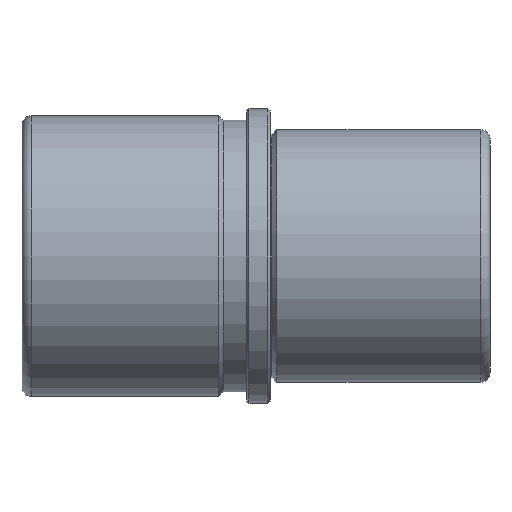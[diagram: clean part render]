
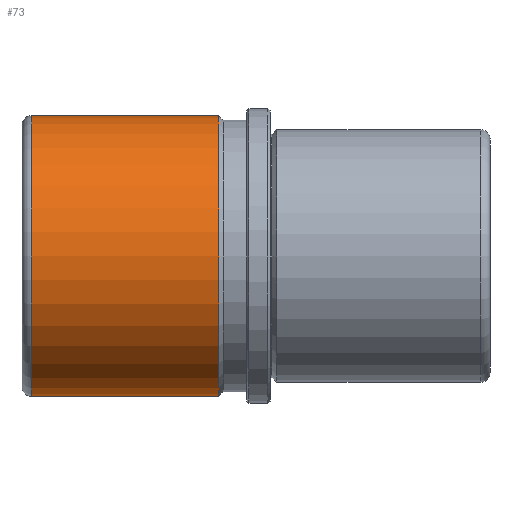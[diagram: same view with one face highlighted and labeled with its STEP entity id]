
A CAD part, front view. The second image highlights one B-rep face of the part: STEP entity #73.
In plain terms, the highlighted cylindrical face has radius 30 mm (diameter 60 mm), a full revolution.
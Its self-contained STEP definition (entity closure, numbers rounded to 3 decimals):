
#73 = ADVANCED_FACE( '', ( #161, #162, #163 ), #164, .T. );
#161 = FACE_OUTER_BOUND( '', #254, .T. );
#162 = FACE_BOUND( '', #255, .T. );
#163 = FACE_OUTER_BOUND( '', #256, .T. );
#164 = CYLINDRICAL_SURFACE( '', #257, 30. );
#254 = EDGE_LOOP( '', ( #369 ) );
#255 = EDGE_LOOP( '', ( #370 ) );
#256 = EDGE_LOOP( '', ( #371 ) );
#257 = AXIS2_PLACEMENT_3D( '', #372, #373, #374 );
#369 = ORIENTED_EDGE( '', *, *, #443, .T. );
#370 = ORIENTED_EDGE( '', *, *, #422, .T. );
#371 = ORIENTED_EDGE( '', *, *, #444, .F. );
#372 = CARTESIAN_POINT( '', ( 47., 0., 0. ) );
#373 = DIRECTION( '', ( -1., 0., 0. ) );
#374 = DIRECTION( '', ( 0., 0., -1. ) );
#422 = EDGE_CURVE( '', #472, #472, #473, .T. );
#443 = EDGE_CURVE( '', #503, #503, #504, .T. );
#444 = EDGE_CURVE( '', #505, #505, #506, .T. );
#472 = VERTEX_POINT( '', #602 );
#473 = B_SPLINE_CURVE_WITH_KNOTS( '', 3, ( #603, #604, #605, #606, #607, #608, #609, #610, #611, #612, #613, #614, #615, #616, #617, #618, #619, #620, #621, #622, #623, #624, #625, #626, #627, #628, #629, #630, #631, #632, #633, #634, #635, #636, #637, #638, #639, #640, #641, #642, #643, #644, #645, #646, #647, #648, #649, #650, #651, #652, #653, #654, #655, #656, #657, #658, #659, #660, #661, #662, #663, #664, #665, #666, #667, #668 ), .UNSPECIFIED., .T., .F., ( 2, 2, 2, 2, 2, 2, 2, 2, 2, 2, 2, 2, 2, 2, 2, 2, 2, 2, 2, 2, 2, 2, 2, 2, 2, 2, 2, 2, 2, 2, 2, 2, 2, 2, 2 ), ( -0.001, 0., 0.001, 0.002, 0.002, 0.003, 0.004, 0.005, 0.006, 0.007, 0.007, 0.008, 0.009, 0.01, 0.011, 0.011, 0.012, 0.013, 0.014, 0.015, 0.016, 0.016, 0.017, 0.018, 0.019, 0.02, 0.02, 0.021, 0.022, 0.023, 0.024, 0.025, 0.025, 0.026, 0.027 ), .UNSPECIFIED. );
#503 = VERTEX_POINT( '', #698 );
#504 = CIRCLE( '', #699, 30. );
#505 = VERTEX_POINT( '', #700 );
#506 = CIRCLE( '', #701, 30. );
#602 = CARTESIAN_POINT( '', ( -18., 29.706, -4.188 ) );
#603 = CARTESIAN_POINT( '', ( -18.277, 29.706, -4.188 ) );
#604 = CARTESIAN_POINT( '', ( -17.723, 29.706, -4.188 ) );
#605 = CARTESIAN_POINT( '', ( -17.451, 29.71, -4.161 ) );
#606 = CARTESIAN_POINT( '', ( -16.915, 29.725, -4.054 ) );
#607 = CARTESIAN_POINT( '', ( -16.649, 29.736, -3.974 ) );
#608 = CARTESIAN_POINT( '', ( -16.142, 29.763, -3.763 ) );
#609 = CARTESIAN_POINT( '', ( -15.901, 29.779, -3.635 ) );
#610 = CARTESIAN_POINT( '', ( -15.446, 29.815, -3.331 ) );
#611 = CARTESIAN_POINT( '', ( -15.231, 29.834, -3.154 ) );
#612 = CARTESIAN_POINT( '', ( -14.845, 29.873, -2.768 ) );
#613 = CARTESIAN_POINT( '', ( -14.672, 29.892, -2.557 ) );
#614 = CARTESIAN_POINT( '', ( -14.366, 29.927, -2.1 ) );
#615 = CARTESIAN_POINT( '', ( -14.236, 29.944, -1.857 ) );
#616 = CARTESIAN_POINT( '', ( -14.027, 29.971, -1.353 ) );
#617 = CARTESIAN_POINT( '', ( -13.947, 29.981, -1.089 ) );
#618 = CARTESIAN_POINT( '', ( -13.839, 29.996, -0.548 ) );
#619 = CARTESIAN_POINT( '', ( -13.812, 30., -0.276 ) );
#620 = CARTESIAN_POINT( '', ( -13.812, 30., 0.271 ) );
#621 = CARTESIAN_POINT( '', ( -13.839, 29.996, 0.549 ) );
#622 = CARTESIAN_POINT( '', ( -13.946, 29.982, 1.086 ) );
#623 = CARTESIAN_POINT( '', ( -14.025, 29.971, 1.348 ) );
#624 = CARTESIAN_POINT( '', ( -14.235, 29.944, 1.855 ) );
#625 = CARTESIAN_POINT( '', ( -14.366, 29.927, 2.1 ) );
#626 = CARTESIAN_POINT( '', ( -14.669, 29.892, 2.553 ) );
#627 = CARTESIAN_POINT( '', ( -14.842, 29.873, 2.765 ) );
#628 = CARTESIAN_POINT( '', ( -15.233, 29.834, 3.156 ) );
#629 = CARTESIAN_POINT( '', ( -15.444, 29.815, 3.329 ) );
#630 = CARTESIAN_POINT( '', ( -15.897, 29.78, 3.632 ) );
#631 = CARTESIAN_POINT( '', ( -16.142, 29.763, 3.763 ) );
#632 = CARTESIAN_POINT( '', ( -16.649, 29.736, 3.974 ) );
#633 = CARTESIAN_POINT( '', ( -16.91, 29.725, 4.053 ) );
#634 = CARTESIAN_POINT( '', ( -17.447, 29.71, 4.16 ) );
#635 = CARTESIAN_POINT( '', ( -17.725, 29.706, 4.188 ) );
#636 = CARTESIAN_POINT( '', ( -18.272, 29.706, 4.188 ) );
#637 = CARTESIAN_POINT( '', ( -18.544, 29.71, 4.162 ) );
#638 = CARTESIAN_POINT( '', ( -19.085, 29.725, 4.054 ) );
#639 = CARTESIAN_POINT( '', ( -19.349, 29.736, 3.974 ) );
#640 = CARTESIAN_POINT( '', ( -19.853, 29.763, 3.766 ) );
#641 = CARTESIAN_POINT( '', ( -20.097, 29.779, 3.635 ) );
#642 = CARTESIAN_POINT( '', ( -20.555, 29.815, 3.33 ) );
#643 = CARTESIAN_POINT( '', ( -20.765, 29.834, 3.157 ) );
#644 = CARTESIAN_POINT( '', ( -21.152, 29.872, 2.771 ) );
#645 = CARTESIAN_POINT( '', ( -21.329, 29.892, 2.556 ) );
#646 = CARTESIAN_POINT( '', ( -21.633, 29.927, 2.102 ) );
#647 = CARTESIAN_POINT( '', ( -21.762, 29.943, 1.862 ) );
#648 = CARTESIAN_POINT( '', ( -21.972, 29.97, 1.354 ) );
#649 = CARTESIAN_POINT( '', ( -22.053, 29.981, 1.089 ) );
#650 = CARTESIAN_POINT( '', ( -22.16, 29.996, 0.553 ) );
#651 = CARTESIAN_POINT( '', ( -22.188, 30., 0.281 ) );
#652 = CARTESIAN_POINT( '', ( -22.188, 30., -0.273 ) );
#653 = CARTESIAN_POINT( '', ( -22.161, 29.996, -0.546 ) );
#654 = CARTESIAN_POINT( '', ( -22.055, 29.982, -1.081 ) );
#655 = CARTESIAN_POINT( '', ( -21.975, 29.971, -1.348 ) );
#656 = CARTESIAN_POINT( '', ( -21.765, 29.944, -1.855 ) );
#657 = CARTESIAN_POINT( '', ( -21.636, 29.928, -2.095 ) );
#658 = CARTESIAN_POINT( '', ( -21.333, 29.892, -2.551 ) );
#659 = CARTESIAN_POINT( '', ( -21.156, 29.873, -2.766 ) );
#660 = CARTESIAN_POINT( '', ( -20.771, 29.835, -3.152 ) );
#661 = CARTESIAN_POINT( '', ( -20.56, 29.816, -3.326 ) );
#662 = CARTESIAN_POINT( '', ( -20.103, 29.78, -3.632 ) );
#663 = CARTESIAN_POINT( '', ( -19.86, 29.763, -3.762 ) );
#664 = CARTESIAN_POINT( '', ( -19.356, 29.736, -3.972 ) );
#665 = CARTESIAN_POINT( '', ( -19.092, 29.725, -4.053 ) );
#666 = CARTESIAN_POINT( '', ( -18.551, 29.71, -4.161 ) );
#667 = CARTESIAN_POINT( '', ( -18.277, 29.706, -4.188 ) );
#668 = CARTESIAN_POINT( '', ( -17.723, 29.706, -4.188 ) );
#698 = CARTESIAN_POINT( '', ( -51., 0., -30. ) );
#699 = AXIS2_PLACEMENT_3D( '', #759, #760, #761 );
#700 = CARTESIAN_POINT( '', ( -11., 0., -30. ) );
#701 = AXIS2_PLACEMENT_3D( '', #762, #763, #764 );
#759 = CARTESIAN_POINT( '', ( -51., 0., 0. ) );
#760 = DIRECTION( '', ( 1., 0., 0. ) );
#761 = DIRECTION( '', ( 0., 0., -1. ) );
#762 = CARTESIAN_POINT( '', ( -11., 0., 0. ) );
#763 = DIRECTION( '', ( 1., 0., 0. ) );
#764 = DIRECTION( '', ( 0., 0., -1. ) );
